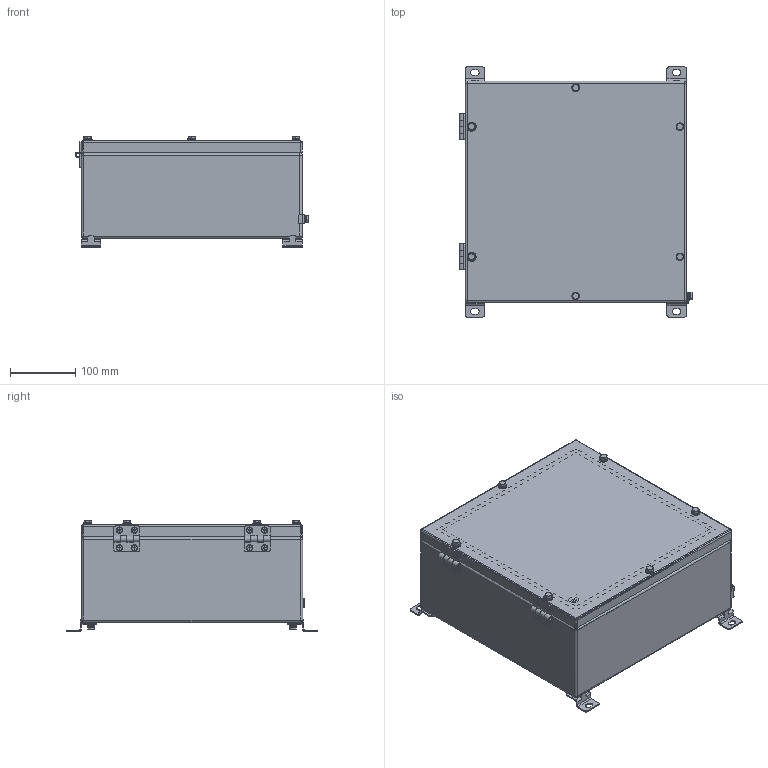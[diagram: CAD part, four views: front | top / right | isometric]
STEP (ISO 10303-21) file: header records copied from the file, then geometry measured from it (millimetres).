
FILE_DESCRIPTION((''),'2;1');
FILE_NAME('C:\OGURNAYA\Готовые чертежи\ТЗ 2019\43786\КСРВ-Н343415.stp','2019-08-05T09:45:03',('A.S.Kozlov'),(''),'Autodesk Inventor 2012','Autodesk Inventor 2012','');
FILE_SCHEMA(('CONFIG_CONTROL_DESIGN'));
Length unit declared in the file: millimetre
Products named in the file (1): КСРВ-(параметрическая модель)_Внешний контур_1
Bounding box: 358.69 x 384 x 171.2 mm (x, y, z)
Surface area: 1073364.6 mm2 (no closed solid volume)
Topology: 0 solids, 67 shells, 1407 faces, 3217 edges, 2021 vertices
Faces by surface type: plane 725, cylinder 392, cone 172, torus 66, sphere 28, bspline 24
Full cylindrical faces by diameter (mm): 1 x6, 3.571 x8, 4 x8, 4.917 x14, 5 x6, 5.459 x5, 6 x11, 6.1 x4, 6.4 x9, 6.9 x4, 7 x4, 7.5 x16, 8 x8, 8.4 x8, 8.7 x5, 9 x13, 10 x4, 12 x17, 12.7 x6, 14 x2, 15 x3
Entity records: 40407 total; most frequent: CARTESIAN_POINT 8354, DIRECTION 6460, ORIENTED_EDGE 5822, EDGE_CURVE 2911, AXIS2_PLACEMENT_3D 2497, VERTEX_POINT 1987, EDGE_LOOP 1868, VECTOR 1466
